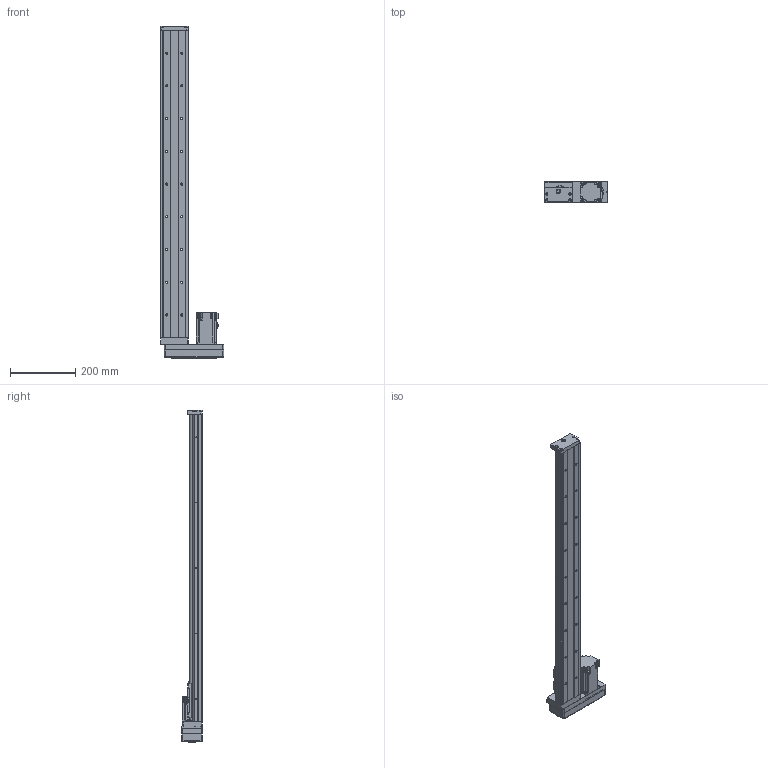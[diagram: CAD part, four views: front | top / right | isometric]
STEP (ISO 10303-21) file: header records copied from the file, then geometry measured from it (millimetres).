
FILE_DESCRIPTION (( 'STEP AP203' ), '1' );
FILE_NAME ('KH86D10C-940A1-H0R-Z.STEP', '2023-09-14T09:08:26', ( 'Windows User' ), ( 'P R C' ), 'SwSTEP 2.0', 'SolidWorks 2016', '' );
FILE_SCHEMA (( 'CONFIG_CONTROL_DESIGN' ));
Length unit declared in the file: millimetre
Products named in the file (7): 86賑輸; KH86D10C-940A1-H0R-Z; KH86-綴釱-05S_KK86-05-01; KK86-06-02（M12X1.0）; KH86-A1; KH86-02-BR00; KH86-01-940
Assembly tree (6 placements, depth 3):
  KH86D10C-940A1-H0R-Z
    KH86-01-940
    KH86-A1
      86賑輸
    KH86-綴釱-05S_KK86-05-01
    KK86-06-02（M12X1.0）
    KH86-02-BR00
Bounding box: 194.2 x 64 x 1014.5 mm (x, y, z)
Volume: 2257521.6 mm3; surface area: 475141.7 mm2
Topology: 22 solids, 22 shells, 1259 faces, 3301 edges, 2135 vertices
Faces by surface type: plane 524, cylinder 465, cone 124, bspline 94, torus 48, sphere 4
Entity records: 45682 total; most frequent: CARTESIAN_POINT 14112, ORIENTED_EDGE 6494, DIRECTION 6311, EDGE_CURVE 3247, AXIS2_PLACEMENT_3D 2290, VERTEX_POINT 2135, LINE 1731, VECTOR 1731
